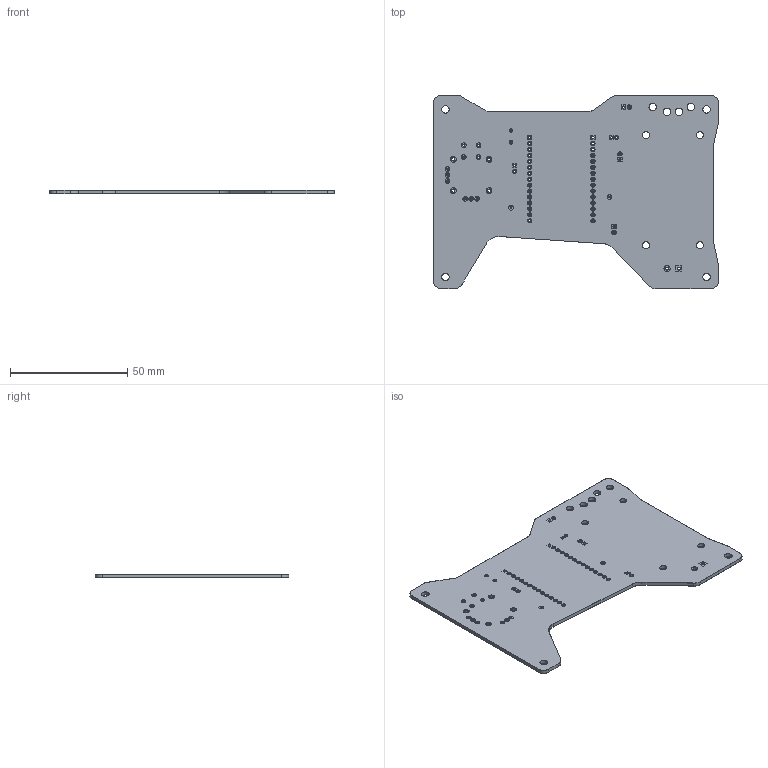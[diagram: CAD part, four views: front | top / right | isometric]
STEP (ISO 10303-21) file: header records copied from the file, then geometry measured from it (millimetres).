
FILE_DESCRIPTION(('KiCad electronic assembly'),'2;1');
FILE_NAME('MetalMonster_PCB_Bare.step','2026-10-14T23:20:17',('Pcbnew'), ('Kicad'),'Open CASCADE STEP processor 7.8','KiCad to STEP converter', 'Unknown');
FILE_SCHEMA(('AUTOMOTIVE_DESIGN { 1 0 10303 214 1 1 1 1 }'));
Length unit declared in the file: millimetre
Products named in the file (4): MetalMonster_PCB_Bare 1; remote_pad; remote_soldermask; remote_PCB
Assembly tree (3 placements, depth 2):
  MetalMonster_PCB_Bare 1
    remote_pad
    remote_soldermask
    remote_PCB
Bounding box: 121.5 x 82.5 x 1.61 mm (x, y, z)
Volume: 12115.8 mm3; surface area: 33224.9 mm2
Topology: 65 solids, 67 shells, 427 faces, 1261 edges, 966 vertices
Faces by surface type: cylinder 239, plane 188
Full cylindrical faces by diameter (mm): 0.75 x10, 0.8 x8, 0.839 x6, 0.85 x4, 0.889 x6, 0.9 x12, 0.95 x38, 1 x30, 1.25 x2, 1.3 x2, 1.347 x4, 1.397 x4, 1.6 x3, 1.778 x10, 1.8 x28, 2 x4, 2.286 x4, 2.6 x1, 3 x4, 3.2 x8
Entity records: 16008 total; most frequent: DIRECTION 2817, CARTESIAN_POINT 2658, ORIENTED_EDGE 2146, EDGE_CURVE 1261, AXIS2_PLACEMENT_3D 1125, VERTEX_POINT 966, FACE_BOUND 843, EDGE_LOOP 843
